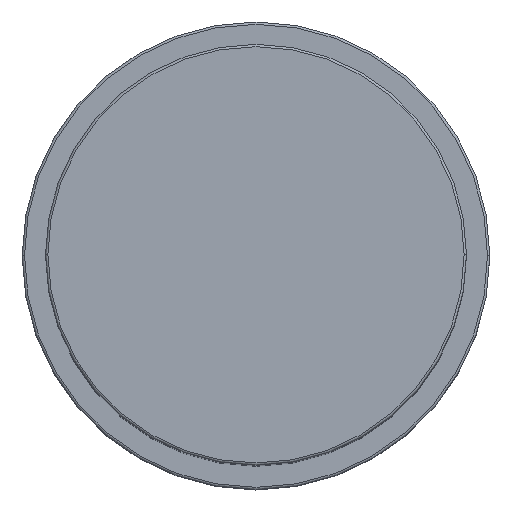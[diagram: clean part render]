
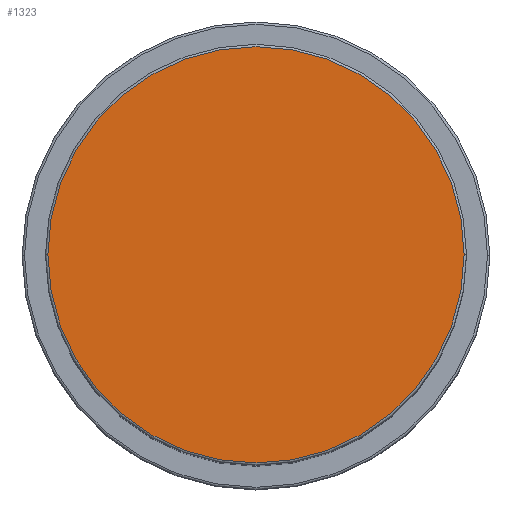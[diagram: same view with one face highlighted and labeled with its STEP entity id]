
A CAD part, top view. The second image highlights one B-rep face of the part: STEP entity #1323.
In plain terms, the highlighted planar face has unit normal (0, 0, 1).
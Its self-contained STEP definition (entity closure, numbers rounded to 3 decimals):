
#42 = AXIS2_PLACEMENT_3D ( 'NONE', #523, #1410, #1515 ) ;
#43 = DIRECTION ( 'NONE',  ( 0., 0., 1. ) ) ;
#55 = CARTESIAN_POINT ( 'NONE',  ( 0., 0., 144. ) ) ;
#72 = CIRCLE ( 'NONE', #321, 44.5 ) ;
#136 = VERTEX_POINT ( 'NONE', #1249 ) ;
#162 = AXIS2_PLACEMENT_3D ( 'NONE', #1452, #43, #682 ) ;
#196 = DIRECTION ( 'NONE',  ( 1., 0., 0. ) ) ;
#321 = AXIS2_PLACEMENT_3D ( 'NONE', #55, #845, #196 ) ;
#378 = ORIENTED_EDGE ( 'NONE', *, *, #1077, .T. ) ;
#452 = PLANE ( 'NONE',  #162 ) ;
#523 = CARTESIAN_POINT ( 'NONE',  ( 0., 0., 144. ) ) ;
#630 = VERTEX_POINT ( 'NONE', #920 ) ;
#677 = CIRCLE ( 'NONE', #42, 44.5 ) ;
#682 = DIRECTION ( 'NONE',  ( 1., 0., 0. ) ) ;
#792 = EDGE_CURVE ( 'NONE', #630, #136, #72, .T. ) ;
#845 = DIRECTION ( 'NONE',  ( 0., 0., 1. ) ) ;
#920 = CARTESIAN_POINT ( 'NONE',  ( -44.5, 0., 144. ) ) ;
#1055 = EDGE_LOOP ( 'NONE', ( #378, #1400 ) ) ;
#1077 = EDGE_CURVE ( 'NONE', #136, #630, #677, .T. ) ;
#1249 = CARTESIAN_POINT ( 'NONE',  ( 44.5, 0., 144. ) ) ;
#1256 = FACE_OUTER_BOUND ( 'NONE', #1055, .T. ) ;
#1323 = ADVANCED_FACE ( 'NONE', ( #1256 ), #452, .T. ) ;
#1400 = ORIENTED_EDGE ( 'NONE', *, *, #792, .T. ) ;
#1410 = DIRECTION ( 'NONE',  ( 0., 0., 1. ) ) ;
#1452 = CARTESIAN_POINT ( 'NONE',  ( 0., 0., 144. ) ) ;
#1515 = DIRECTION ( 'NONE',  ( 1., 0., 0. ) ) ;
